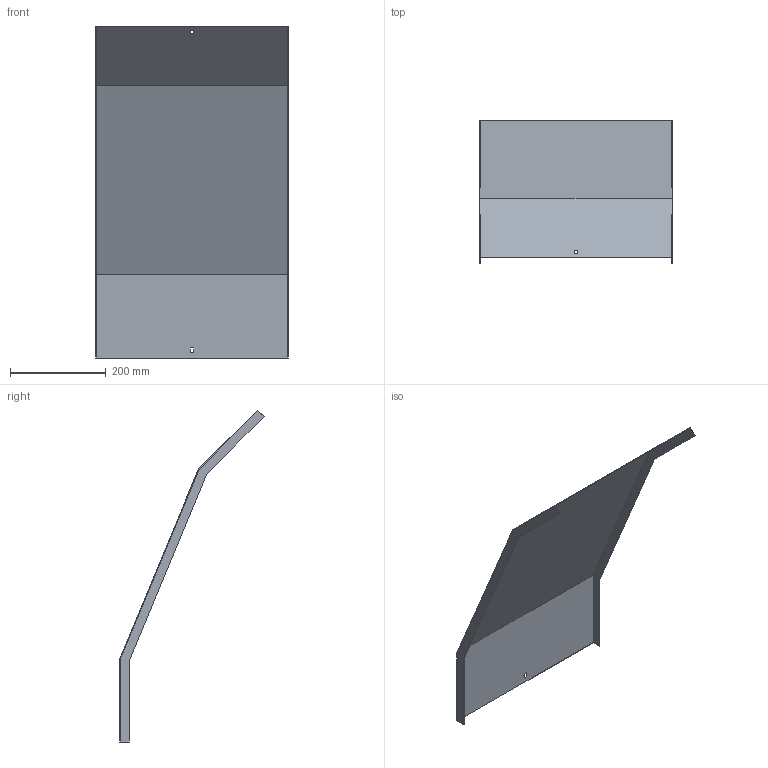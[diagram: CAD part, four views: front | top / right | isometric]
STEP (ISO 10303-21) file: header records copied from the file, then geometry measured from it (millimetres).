
FILE_DESCRIPTION (( 'STEP AP214' ), '1' );
FILE_NAME ('34N5D400.step', '2025-02-21T10:33:12', ( '' ), ( '' ), 'SwSTEP 2.0', 'SolidWorks 2023', '' );
FILE_SCHEMA (( 'AUTOMOTIVE_DESIGN' ));
Length unit declared in the file: millimetre
Products named in the file (1): 34N5D400
Bounding box: 403 x 301.7 x 694.23 mm (x, y, z)
Volume: 512411.6 mm3; surface area: 686916.3 mm2
Topology: 1 solids, 1 shells, 26 faces, 72 edges, 48 vertices
Faces by surface type: plane 26
Entity records: 847 total; most frequent: CARTESIAN_POINT 147, ORIENTED_EDGE 144, DIRECTION 126, VECTOR 72, EDGE_CURVE 72, LINE 72, VERTEX_POINT 48, EDGE_LOOP 30
